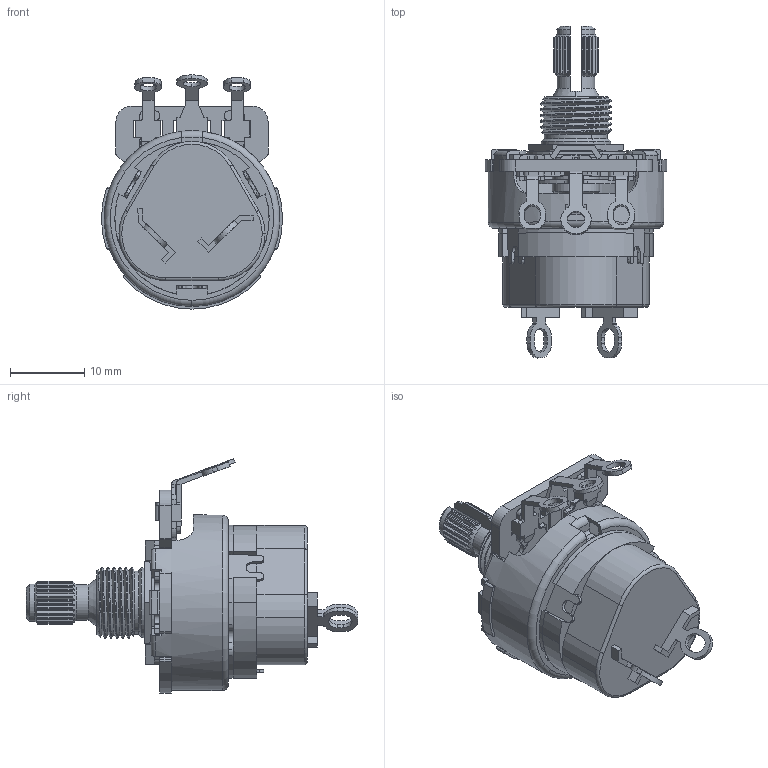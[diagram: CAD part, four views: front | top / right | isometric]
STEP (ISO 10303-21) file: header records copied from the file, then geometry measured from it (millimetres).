
FILE_DESCRIPTION (( 'STEP AP214' ), '1' );
FILE_NAME ('450T220K105B2F5.STEP', '2019-05-28T02:22:10', ( '' ), ( '' ), 'SwSTEP 2.0', 'SolidWorks 2019', '' );
FILE_SCHEMA (( 'AUTOMOTIVE_DESIGN' ));
Length unit declared in the file: millimetre
Products named in the file (13): FR-K-2 for 45C-2T; 450 element; 450T220K105B2F5; 450A-104G; 450K-DL-11389-20; T450AEDF(For 104G); K45Q for 45C-2T_Flat Bottom_45Q54 withFenderTradeMark_NewDetentSetting_07102012; KA22; 45C-2T-no lug; K-K-3; 450B-4; 450F-23 for T450AEDF; 450D-17 for T450AEDF
Assembly tree (13 placements, depth 3):
  450T220K105B2F5
    FR-K-2 for 45C-2T
      K45Q for 45C-2T_Flat Bottom_45Q54 withFenderTradeMark_NewDetentSetting_07102012
      K-K-3
      KA22
    T450AEDF(For 104G)
      450A-104G
      450D-17 for T450AEDF
      450 element
      450F-23 for T450AEDF  x2
    45C-2T-no lug
    450B-4
    450K-DL-11389-20
Bounding box: 24.33 x 44.58 x 31.47 mm (x, y, z)
Volume: 4217 mm3; surface area: 9001.7 mm2
Topology: 11 solids, 11 shells, 999 faces, 2813 edges, 1843 vertices
Faces by surface type: plane 569, cylinder 378, cone 28, torus 22, bspline 2
Entity records: 32031 total; most frequent: CARTESIAN_POINT 7010, ORIENTED_EDGE 5260, DIRECTION 5083, EDGE_CURVE 2630, AXIS2_PLACEMENT_3D 1744, VERTEX_POINT 1726, VECTOR 1595, LINE 1595
